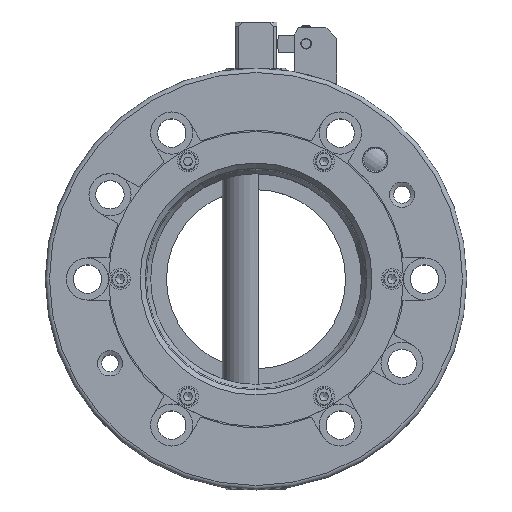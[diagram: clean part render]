
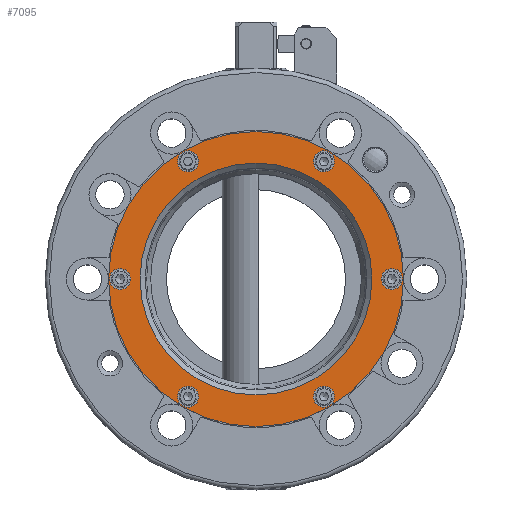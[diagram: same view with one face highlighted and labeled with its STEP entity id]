
A CAD part, top view. The second image highlights one B-rep face of the part: STEP entity #7095.
In plain terms, the highlighted planar face has unit normal (0, 0, 1).
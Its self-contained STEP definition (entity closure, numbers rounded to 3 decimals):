
#217=FACE_BOUND('',#1126,.T.);
#218=FACE_BOUND('',#1127,.T.);
#219=FACE_BOUND('',#1128,.T.);
#220=FACE_BOUND('',#1129,.T.);
#221=FACE_BOUND('',#1130,.T.);
#222=FACE_BOUND('',#1131,.T.);
#223=FACE_BOUND('',#1132,.T.);
#304=PLANE('',#7741);
#703=FACE_OUTER_BOUND('',#1125,.T.);
#1125=EDGE_LOOP('',(#5284,#5285));
#1126=EDGE_LOOP('',(#5286,#5287));
#1127=EDGE_LOOP('',(#5288,#5289));
#1128=EDGE_LOOP('',(#5290,#5291));
#1129=EDGE_LOOP('',(#5292,#5293));
#1130=EDGE_LOOP('',(#5294,#5295));
#1131=EDGE_LOOP('',(#5296,#5297));
#1132=EDGE_LOOP('',(#5298));
#2455=CIRCLE('',#7661,5.);
#2456=CIRCLE('',#7662,5.);
#2461=CIRCLE('',#7670,5.);
#2462=CIRCLE('',#7671,5.);
#2467=CIRCLE('',#7679,5.);
#2468=CIRCLE('',#7680,5.);
#2473=CIRCLE('',#7688,5.);
#2474=CIRCLE('',#7689,5.);
#2479=CIRCLE('',#7697,5.);
#2480=CIRCLE('',#7698,5.);
#2485=CIRCLE('',#7706,5.);
#2486=CIRCLE('',#7707,5.);
#2507=CIRCLE('',#7737,55.);
#2510=CIRCLE('',#7742,70.);
#2511=CIRCLE('',#7743,70.);
#2988=VERTEX_POINT('',#11692);
#2989=VERTEX_POINT('',#11693);
#2994=VERTEX_POINT('',#11709);
#2995=VERTEX_POINT('',#11710);
#3000=VERTEX_POINT('',#11726);
#3001=VERTEX_POINT('',#11727);
#3006=VERTEX_POINT('',#11743);
#3007=VERTEX_POINT('',#11744);
#3012=VERTEX_POINT('',#11760);
#3013=VERTEX_POINT('',#11761);
#3018=VERTEX_POINT('',#11777);
#3019=VERTEX_POINT('',#11778);
#3039=VERTEX_POINT('',#11836);
#3042=VERTEX_POINT('',#11846);
#3043=VERTEX_POINT('',#11847);
#3806=EDGE_CURVE('',#2988,#2989,#2455,.T.);
#3807=EDGE_CURVE('',#2989,#2988,#2456,.T.);
#3814=EDGE_CURVE('',#2994,#2995,#2461,.T.);
#3815=EDGE_CURVE('',#2995,#2994,#2462,.T.);
#3822=EDGE_CURVE('',#3000,#3001,#2467,.T.);
#3823=EDGE_CURVE('',#3001,#3000,#2468,.T.);
#3830=EDGE_CURVE('',#3006,#3007,#2473,.T.);
#3831=EDGE_CURVE('',#3007,#3006,#2474,.T.);
#3838=EDGE_CURVE('',#3012,#3013,#2479,.T.);
#3839=EDGE_CURVE('',#3013,#3012,#2480,.T.);
#3846=EDGE_CURVE('',#3018,#3019,#2485,.T.);
#3847=EDGE_CURVE('',#3019,#3018,#2486,.T.);
#3876=EDGE_CURVE('',#3039,#3039,#2507,.T.);
#3880=EDGE_CURVE('',#3042,#3043,#2510,.T.);
#3881=EDGE_CURVE('',#3043,#3042,#2511,.T.);
#5284=ORIENTED_EDGE('',*,*,#3880,.T.);
#5285=ORIENTED_EDGE('',*,*,#3881,.T.);
#5286=ORIENTED_EDGE('',*,*,#3806,.T.);
#5287=ORIENTED_EDGE('',*,*,#3807,.T.);
#5288=ORIENTED_EDGE('',*,*,#3814,.T.);
#5289=ORIENTED_EDGE('',*,*,#3815,.T.);
#5290=ORIENTED_EDGE('',*,*,#3822,.T.);
#5291=ORIENTED_EDGE('',*,*,#3823,.T.);
#5292=ORIENTED_EDGE('',*,*,#3830,.T.);
#5293=ORIENTED_EDGE('',*,*,#3831,.T.);
#5294=ORIENTED_EDGE('',*,*,#3838,.T.);
#5295=ORIENTED_EDGE('',*,*,#3839,.T.);
#5296=ORIENTED_EDGE('',*,*,#3846,.T.);
#5297=ORIENTED_EDGE('',*,*,#3847,.T.);
#5298=ORIENTED_EDGE('',*,*,#3876,.F.);
#7095=ADVANCED_FACE('',(#703,#217,#218,#219,#220,#221,#222,#223),#304,.T.);
#7661=AXIS2_PLACEMENT_3D('',#11694,#8941,#8942);
#7662=AXIS2_PLACEMENT_3D('',#11695,#8943,#8944);
#7670=AXIS2_PLACEMENT_3D('',#11711,#8961,#8962);
#7671=AXIS2_PLACEMENT_3D('',#11712,#8963,#8964);
#7679=AXIS2_PLACEMENT_3D('',#11728,#8981,#8982);
#7680=AXIS2_PLACEMENT_3D('',#11729,#8983,#8984);
#7688=AXIS2_PLACEMENT_3D('',#11745,#9001,#9002);
#7689=AXIS2_PLACEMENT_3D('',#11746,#9003,#9004);
#7697=AXIS2_PLACEMENT_3D('',#11762,#9021,#9022);
#7698=AXIS2_PLACEMENT_3D('',#11763,#9023,#9024);
#7706=AXIS2_PLACEMENT_3D('',#11779,#9041,#9042);
#7707=AXIS2_PLACEMENT_3D('',#11780,#9043,#9044);
#7737=AXIS2_PLACEMENT_3D('',#11838,#9111,#9112);
#7741=AXIS2_PLACEMENT_3D('',#11845,#9120,#9121);
#7742=AXIS2_PLACEMENT_3D('',#11848,#9122,#9123);
#7743=AXIS2_PLACEMENT_3D('',#11849,#9124,#9125);
#8941=DIRECTION('center_axis',(0.,0.,
-1.));
#8942=DIRECTION('ref_axis',(-0.5,-0.866,0.));
#8943=DIRECTION('center_axis',(0.,0.,
-1.));
#8944=DIRECTION('ref_axis',(-0.5,-0.866,0.));
#8961=DIRECTION('center_axis',(0.,0.,
-1.));
#8962=DIRECTION('ref_axis',(-1.,0.,0.));
#8963=DIRECTION('center_axis',(0.,0.,
-1.));
#8964=DIRECTION('ref_axis',(-1.,0.,0.));
#8981=DIRECTION('center_axis',(0.,0.,
-1.));
#8982=DIRECTION('ref_axis',(-0.5,0.866,0.));
#8983=DIRECTION('center_axis',(0.,0.,
-1.));
#8984=DIRECTION('ref_axis',(-0.5,0.866,0.));
#9001=DIRECTION('center_axis',(0.,0.,
-1.));
#9002=DIRECTION('ref_axis',(0.5,0.866,0.));
#9003=DIRECTION('center_axis',(0.,0.,
-1.));
#9004=DIRECTION('ref_axis',(0.5,0.866,0.));
#9021=DIRECTION('center_axis',(0.,0.,
-1.));
#9022=DIRECTION('ref_axis',(0.5,-0.866,0.));
#9023=DIRECTION('center_axis',(0.,0.,
-1.));
#9024=DIRECTION('ref_axis',(0.5,-0.866,0.));
#9041=DIRECTION('center_axis',(0.,0.,
-1.));
#9042=DIRECTION('ref_axis',(1.,0.,0.));
#9043=DIRECTION('center_axis',(0.,0.,
-1.));
#9044=DIRECTION('ref_axis',(1.,0.,0.));
#9111=DIRECTION('center_axis',(0.,0.,
1.));
#9112=DIRECTION('ref_axis',(0.,1.,0.));
#9120=DIRECTION('center_axis',(0.,0.,
1.));
#9121=DIRECTION('ref_axis',(1.,0.,0.));
#9122=DIRECTION('center_axis',(0.,0.,
1.));
#9123=DIRECTION('ref_axis',(0.,-1.,0.));
#9124=DIRECTION('center_axis',(0.,0.,
1.));
#9125=DIRECTION('ref_axis',(0.,-1.,0.));
#11692=CARTESIAN_POINT('',(29.75,51.529,32.5));
#11693=CARTESIAN_POINT('',(34.75,60.189,32.5));
#11694=CARTESIAN_POINT('Origin',(32.25,55.859,32.5));
#11695=CARTESIAN_POINT('Origin',(32.25,55.859,32.5));
#11709=CARTESIAN_POINT('',(59.5,0.,32.5));
#11710=CARTESIAN_POINT('',(69.5,0.,32.5));
#11711=CARTESIAN_POINT('Origin',(64.5,0.,32.5));
#11712=CARTESIAN_POINT('Origin',(64.5,0.,32.5));
#11726=CARTESIAN_POINT('',(29.75,-51.529,32.5));
#11727=CARTESIAN_POINT('',(34.75,-60.189,32.5));
#11728=CARTESIAN_POINT('Origin',(32.25,-55.859,32.5));
#11729=CARTESIAN_POINT('Origin',(32.25,-55.859,32.5));
#11743=CARTESIAN_POINT('',(-29.75,-51.529,32.5));
#11744=CARTESIAN_POINT('',(-34.75,-60.189,32.5));
#11745=CARTESIAN_POINT('Origin',(-32.25,-55.859,32.5));
#11746=CARTESIAN_POINT('Origin',(-32.25,-55.859,32.5));
#11760=CARTESIAN_POINT('',(-29.75,51.529,32.5));
#11761=CARTESIAN_POINT('',(-34.75,60.189,32.5));
#11762=CARTESIAN_POINT('Origin',(-32.25,55.859,32.5));
#11763=CARTESIAN_POINT('Origin',(-32.25,55.859,32.5));
#11777=CARTESIAN_POINT('',(-59.5,0.,32.5));
#11778=CARTESIAN_POINT('',(-69.5,0.,32.5));
#11779=CARTESIAN_POINT('Origin',(-64.5,0.,32.5));
#11780=CARTESIAN_POINT('Origin',(-64.5,0.,32.5));
#11836=CARTESIAN_POINT('',(0.,-55.,32.5));
#11838=CARTESIAN_POINT('Origin',(0.,0.,
32.5));
#11845=CARTESIAN_POINT('Origin',(0.,-61.,32.5));
#11846=CARTESIAN_POINT('',(0.,-70.,32.5));
#11847=CARTESIAN_POINT('',(0.,70.,32.5));
#11848=CARTESIAN_POINT('Origin',(0.,0.,
32.5));
#11849=CARTESIAN_POINT('Origin',(0.,0.,
32.5));
